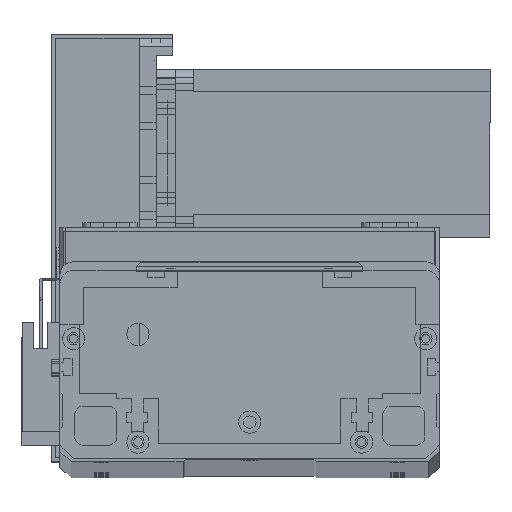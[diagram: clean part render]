
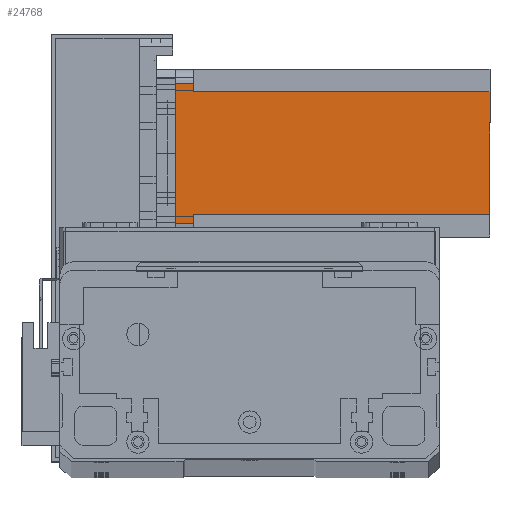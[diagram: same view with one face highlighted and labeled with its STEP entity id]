
A CAD part, top view. The second image highlights one B-rep face of the part: STEP entity #24768.
In plain terms, the highlighted planar face has unit normal (0, 0, 1) as drawn and (0, -1, 0) by its records, which use the part's own axes.
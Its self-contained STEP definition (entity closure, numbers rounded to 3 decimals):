
#432 = DIRECTION ( 'NONE',  ( 0., -1., 0. ) ) ;
#995 = CARTESIAN_POINT ( 'NONE',  ( 52., 0., -112.5 ) ) ;
#1248 = EDGE_CURVE ( 'NONE', #22289, #26039, #28299, .T. ) ;
#1754 = LINE ( 'NONE', #20625, #7602 ) ;
#2673 = DIRECTION ( 'NONE',  ( 1., 0., 0. ) ) ;
#2958 = LINE ( 'NONE', #23613, #15379 ) ;
#3190 = VECTOR ( 'NONE', #24235, 1000. ) ;
#4196 = LINE ( 'NONE', #31449, #22952 ) ;
#4212 = LINE ( 'NONE', #8940, #16597 ) ;
#4454 = VERTEX_POINT ( 'NONE', #995 ) ;
#4518 = EDGE_CURVE ( 'NONE', #15399, #22958, #4212, .T. ) ;
#4703 = CARTESIAN_POINT ( 'NONE',  ( 5., 0., -6.5 ) ) ;
#5190 = ORIENTED_EDGE ( 'NONE', *, *, #1248, .T. ) ;
#5810 = EDGE_CURVE ( 'NONE', #26039, #22958, #2958, .T. ) ;
#6352 = ORIENTED_EDGE ( 'NONE', *, *, #5810, .T. ) ;
#6439 = EDGE_CURVE ( 'NONE', #15399, #23518, #1754, .T. ) ;
#6882 = VECTOR ( 'NONE', #12030, 1000. ) ;
#6969 = LINE ( 'NONE', #9919, #31087 ) ;
#7426 = CARTESIAN_POINT ( 'NONE',  ( 52., 0., -6.5 ) ) ;
#7455 = ORIENTED_EDGE ( 'NONE', *, *, #4518, .F. ) ;
#7602 = VECTOR ( 'NONE', #20973, 1000. ) ;
#7689 = VERTEX_POINT ( 'NONE', #22661 ) ;
#7839 = PLANE ( 'NONE',  #9481 ) ;
#7916 = EDGE_CURVE ( 'NONE', #7689, #23518, #16797, .T. ) ;
#7965 = FACE_OUTER_BOUND ( 'NONE', #13968, .T. ) ;
#8406 = DIRECTION ( 'NONE',  ( 1., 0., 0. ) ) ;
#8594 = ORIENTED_EDGE ( 'NONE', *, *, #6439, .T. ) ;
#8940 = CARTESIAN_POINT ( 'NONE',  ( 0., 0., 0. ) ) ;
#9481 = AXIS2_PLACEMENT_3D ( 'NONE', #27175, #432, #17685 ) ;
#9500 = ORIENTED_EDGE ( 'NONE', *, *, #7916, .F. ) ;
#9919 = CARTESIAN_POINT ( 'NONE',  ( 8., 0., -112.5 ) ) ;
#9983 = DIRECTION ( 'NONE',  ( 0., 0., 1. ) ) ;
#10582 = ORIENTED_EDGE ( 'NONE', *, *, #10861, .F. ) ;
#10861 = EDGE_CURVE ( 'NONE', #21292, #7689, #6969, .T. ) ;
#11605 = CARTESIAN_POINT ( 'NONE',  ( 52., 0., -112.5 ) ) ;
#11725 = ORIENTED_EDGE ( 'NONE', *, *, #11887, .T. ) ;
#11887 = EDGE_CURVE ( 'NONE', #21292, #4454, #4196, .T. ) ;
#12030 = DIRECTION ( 'NONE',  ( 0., 0., -1. ) ) ;
#12055 = CARTESIAN_POINT ( 'NONE',  ( 8., 0., -6.5 ) ) ;
#12415 = DIRECTION ( 'NONE',  ( -1., 0., 0. ) ) ;
#12890 = ORIENTED_EDGE ( 'NONE', *, *, #13077, .F. ) ;
#13077 = EDGE_CURVE ( 'NONE', #22289, #4454, #14248, .T. ) ;
#13820 = CARTESIAN_POINT ( 'NONE',  ( 52., 0., -6.5 ) ) ;
#13968 = EDGE_LOOP ( 'NONE', ( #5190, #6352, #7455, #8594, #9500, #10582, #11725, #12890 ) ) ;
#14248 = LINE ( 'NONE', #11605, #6882 ) ;
#15379 = VECTOR ( 'NONE', #29745, 1000. ) ;
#15399 = VERTEX_POINT ( 'NONE', #20299 ) ;
#16597 = VECTOR ( 'NONE', #8406, 1000. ) ;
#16797 = LINE ( 'NONE', #12055, #27253 ) ;
#17656 = CARTESIAN_POINT ( 'NONE',  ( 8., 0., -112.5 ) ) ;
#17685 = DIRECTION ( 'NONE',  ( 0., 0., -1. ) ) ;
#20299 = CARTESIAN_POINT ( 'NONE',  ( 5., 0., 0. ) ) ;
#20625 = CARTESIAN_POINT ( 'NONE',  ( 5., 0., -112.5 ) ) ;
#20973 = DIRECTION ( 'NONE',  ( 0., 0., -1. ) ) ;
#21292 = VERTEX_POINT ( 'NONE', #17656 ) ;
#21976 = CARTESIAN_POINT ( 'NONE',  ( 55., 0., 0. ) ) ;
#22289 = VERTEX_POINT ( 'NONE', #7426 ) ;
#22661 = CARTESIAN_POINT ( 'NONE',  ( 8., 0., -6.5 ) ) ;
#22952 = VECTOR ( 'NONE', #2673, 1000. ) ;
#22958 = VERTEX_POINT ( 'NONE', #21976 ) ;
#23518 = VERTEX_POINT ( 'NONE', #4703 ) ;
#23613 = CARTESIAN_POINT ( 'NONE',  ( 55., 0., -112.5 ) ) ;
#24235 = DIRECTION ( 'NONE',  ( 1., 0., 0. ) ) ;
#24768 = ADVANCED_FACE ( 'NONE', ( #7965 ), #7839, .T. ) ;
#26039 = VERTEX_POINT ( 'NONE', #28197 ) ;
#27175 = CARTESIAN_POINT ( 'NONE',  ( 0., 0., -112.5 ) ) ;
#27253 = VECTOR ( 'NONE', #12415, 1000. ) ;
#28197 = CARTESIAN_POINT ( 'NONE',  ( 55., 0., -6.5 ) ) ;
#28299 = LINE ( 'NONE', #13820, #3190 ) ;
#29745 = DIRECTION ( 'NONE',  ( 0., 0., 1. ) ) ;
#31087 = VECTOR ( 'NONE', #9983, 1000. ) ;
#31449 = CARTESIAN_POINT ( 'NONE',  ( 0., 0., -112.5 ) ) ;
